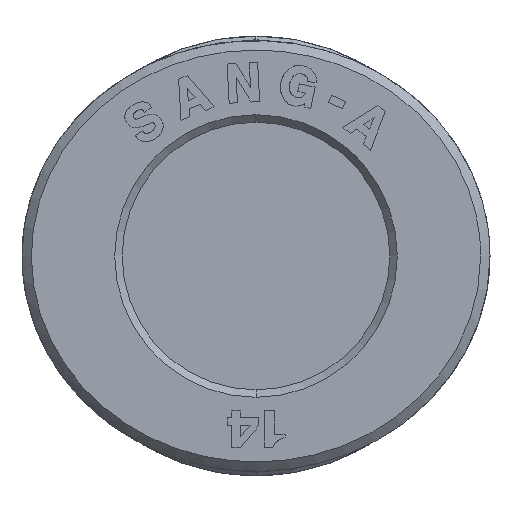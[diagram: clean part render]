
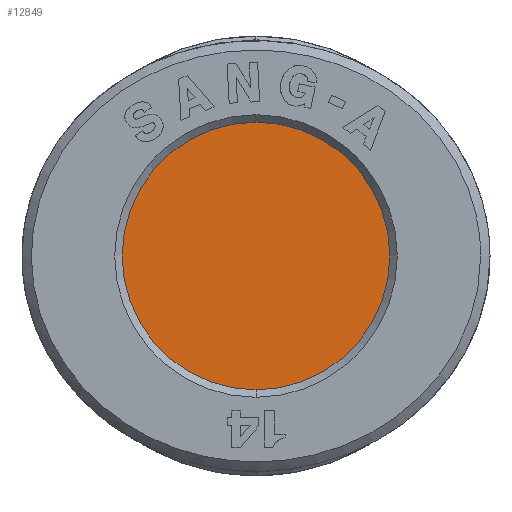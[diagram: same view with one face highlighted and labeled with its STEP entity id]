
A CAD part, left-side view. The second image highlights one B-rep face of the part: STEP entity #12849.
In plain terms, the highlighted planar face has unit normal (-1, 0, 0).
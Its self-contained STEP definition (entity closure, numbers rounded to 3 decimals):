
#141=CARTESIAN_POINT('',(-1.,0.,7.15));
#142=VERTEX_POINT('',#141);
#151=CARTESIAN_POINT('',(-1.,0.,-7.15));
#152=VERTEX_POINT('',#151);
#153=CARTESIAN_POINT('',(-1.,0.,0.));
#154=DIRECTION('',(1.0,0.0,0.0));
#155=DIRECTION('',(0.0,0.0,1.0));
#156=AXIS2_PLACEMENT_3D('',#153,#154,#155);
#157=CIRCLE('',#156,7.15);
#158=EDGE_CURVE('',#142,#152,#157,.T.);
#12834=CARTESIAN_POINT('',(-1.,0.,3.575));
#12835=DIRECTION('',(1.0,0.0,0.0));
#12836=DIRECTION('',(0.0,0.0,-1.0));
#12837=AXIS2_PLACEMENT_3D('',#12834,#12835,#12836);
#12838=PLANE('',#12837);
#12839=ORIENTED_EDGE('',*,*,#158,.F.);
#12840=CARTESIAN_POINT('',(-1.,0.,0.));
#12841=DIRECTION('',(1.0,0.0,0.0));
#12842=DIRECTION('',(0.0,0.0,1.0));
#12843=AXIS2_PLACEMENT_3D('',#12840,#12841,#12842);
#12844=CIRCLE('',#12843,7.15);
#12845=EDGE_CURVE('',#152,#142,#12844,.T.);
#12846=ORIENTED_EDGE('',*,*,#12845,.F.);
#12847=EDGE_LOOP('',(#12839,#12846));
#12848=FACE_OUTER_BOUND('',#12847,.T.);
#12849=ADVANCED_FACE('',(#12848),#12838,.F.);
